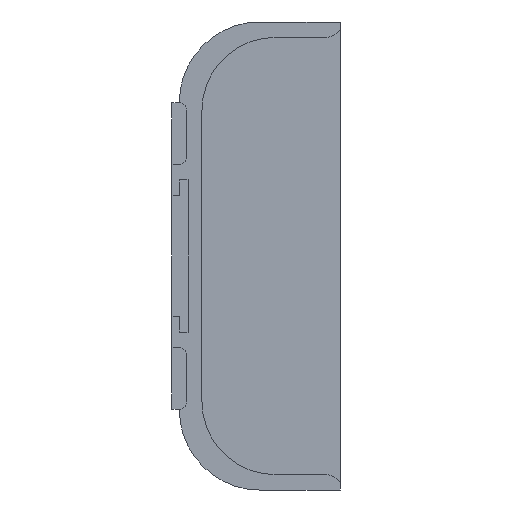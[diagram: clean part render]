
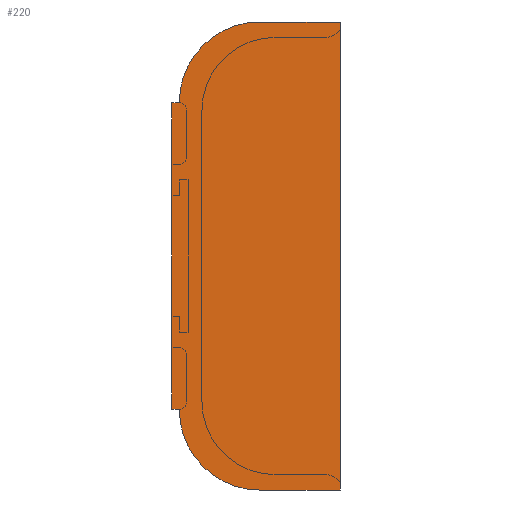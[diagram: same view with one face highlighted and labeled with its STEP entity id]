
A CAD part, left-side view. The second image highlights one B-rep face of the part: STEP entity #220.
In plain terms, the highlighted planar face has unit normal (-1, 0, 0).
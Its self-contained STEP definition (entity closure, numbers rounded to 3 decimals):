
#220 = ADVANCED_FACE( '', ( #447 ), #448, .F. );
#447 = FACE_OUTER_BOUND( '', #689, .T. );
#448 = PLANE( '', #690 );
#689 = EDGE_LOOP( '', ( #1165, #1166, #1167, #1168, #1169, #1170, #1171, #1172, #1173, #1174, #1175, #1176 ) );
#690 = AXIS2_PLACEMENT_3D( '', #1177, #1178, #1179 );
#1165 = ORIENTED_EDGE( '', *, *, #1729, .F. );
#1166 = ORIENTED_EDGE( '', *, *, #1730, .F. );
#1167 = ORIENTED_EDGE( '', *, *, #1546, .F. );
#1168 = ORIENTED_EDGE( '', *, *, #1731, .F. );
#1169 = ORIENTED_EDGE( '', *, *, #1569, .F. );
#1170 = ORIENTED_EDGE( '', *, *, #1541, .F. );
#1171 = ORIENTED_EDGE( '', *, *, #1561, .F. );
#1172 = ORIENTED_EDGE( '', *, *, #1732, .F. );
#1173 = ORIENTED_EDGE( '', *, *, #1733, .F. );
#1174 = ORIENTED_EDGE( '', *, *, #1734, .F. );
#1175 = ORIENTED_EDGE( '', *, *, #1735, .F. );
#1176 = ORIENTED_EDGE( '', *, *, #1673, .F. );
#1177 = CARTESIAN_POINT( '', ( 0., 11., 11. ) );
#1178 = DIRECTION( '', ( 1., 0., 0. ) );
#1179 = DIRECTION( '', ( 0., 0., -1. ) );
#1541 = EDGE_CURVE( '', #1837, #1838, #1839, .T. );
#1546 = EDGE_CURVE( '', #1846, #1847, #1848, .T. );
#1561 = EDGE_CURVE( '', #1873, #1837, #1874, .T. );
#1569 = EDGE_CURVE( '', #1838, #1887, #1888, .T. );
#1673 = EDGE_CURVE( '', #2062, #2063, #2064, .T. );
#1729 = EDGE_CURVE( '', #2142, #2062, #2143, .T. );
#1730 = EDGE_CURVE( '', #1847, #2142, #2144, .T. );
#1731 = EDGE_CURVE( '', #1887, #1846, #2145, .T. );
#1732 = EDGE_CURVE( '', #2146, #1873, #2147, .T. );
#1733 = EDGE_CURVE( '', #2148, #2146, #2149, .T. );
#1734 = EDGE_CURVE( '', #2150, #2148, #2151, .T. );
#1735 = EDGE_CURVE( '', #2063, #2150, #2152, .T. );
#1837 = VERTEX_POINT( '', #2271 );
#1838 = VERTEX_POINT( '', #2272 );
#1839 = LINE( '', #2273, #2274 );
#1846 = VERTEX_POINT( '', #2284 );
#1847 = VERTEX_POINT( '', #2285 );
#1848 = LINE( '', #2286, #2287 );
#1873 = VERTEX_POINT( '', #2323 );
#1874 = LINE( '', #2324, #2325 );
#1887 = VERTEX_POINT( '', #2344 );
#1888 = CIRCLE( '', #2345, 11. );
#2062 = VERTEX_POINT( '', #2586 );
#2063 = VERTEX_POINT( '', #2587 );
#2064 = LINE( '', #2588, #2589 );
#2142 = VERTEX_POINT( '', #2700 );
#2143 = LINE( '', #2701, #2702 );
#2144 = LINE( '', #2703, #2704 );
#2145 = CIRCLE( '', #2705, 1. );
#2146 = VERTEX_POINT( '', #2706 );
#2147 = LINE( '', #2707, #2708 );
#2148 = VERTEX_POINT( '', #2709 );
#2149 = CIRCLE( '', #2710, 11. );
#2150 = VERTEX_POINT( '', #2711 );
#2151 = CIRCLE( '', #2712, 1. );
#2152 = LINE( '', #2713, #2714 );
#2271 = CARTESIAN_POINT( '', ( 0., 0., 0. ) );
#2272 = CARTESIAN_POINT( '', ( 0., 11., 0. ) );
#2273 = CARTESIAN_POINT( '', ( 0., 0., 0. ) );
#2274 = VECTOR( '', #2854, 1000. );
#2284 = CARTESIAN_POINT( '', ( 0., 22., 11.05 ) );
#2285 = CARTESIAN_POINT( '', ( 0., 23.024, 11.05 ) );
#2286 = CARTESIAN_POINT( '', ( 0., 22., 11.05 ) );
#2287 = VECTOR( '', #2858, 1000. );
#2323 = CARTESIAN_POINT( '', ( 0., 0., 64. ) );
#2324 = CARTESIAN_POINT( '', ( 0., 0., 64. ) );
#2325 = VECTOR( '', #2870, 1000. );
#2344 = CARTESIAN_POINT( '', ( 0., 22., 11.05 ) );
#2345 = AXIS2_PLACEMENT_3D( '', #2877, #2878, #2879 );
#2586 = CARTESIAN_POINT( '', ( 0., 23., 44.5 ) );
#2587 = CARTESIAN_POINT( '', ( 0., 23.024, 52.95 ) );
#2588 = CARTESIAN_POINT( '', ( 0., 23., 44.5 ) );
#2589 = VECTOR( '', #3004, 1000. );
#2700 = CARTESIAN_POINT( '', ( 0., 23., 19.5 ) );
#2701 = CARTESIAN_POINT( '', ( 0., 23., 40.25 ) );
#2702 = VECTOR( '', #3059, 1000. );
#2703 = CARTESIAN_POINT( '', ( 0., 23.024, 11.05 ) );
#2704 = VECTOR( '', #3060, 1000. );
#2705 = AXIS2_PLACEMENT_3D( '', #3061, #3062, #3063 );
#2706 = CARTESIAN_POINT( '', ( 0., 11., 64. ) );
#2707 = CARTESIAN_POINT( '', ( 0., 11., 64. ) );
#2708 = VECTOR( '', #3064, 1000. );
#2709 = CARTESIAN_POINT( '', ( 0., 22., 52.95 ) );
#2710 = AXIS2_PLACEMENT_3D( '', #3065, #3066, #3067 );
#2711 = CARTESIAN_POINT( '', ( 0., 22., 52.95 ) );
#2712 = AXIS2_PLACEMENT_3D( '', #3068, #3069, #3070 );
#2713 = CARTESIAN_POINT( '', ( 0., 23.024, 52.95 ) );
#2714 = VECTOR( '', #3071, 1000. );
#2854 = DIRECTION( '', ( 0., 1., 0. ) );
#2858 = DIRECTION( '', ( 0., 1., 0. ) );
#2870 = DIRECTION( '', ( 0., 0., -1. ) );
#2877 = CARTESIAN_POINT( '', ( 0., 11., 11. ) );
#2878 = DIRECTION( '', ( 1., 0., 0. ) );
#2879 = DIRECTION( '', ( 0., 0., -1. ) );
#3004 = DIRECTION( '', ( 0., 0.003, 1. ) );
#3059 = DIRECTION( '', ( 0., 0., 1. ) );
#3060 = DIRECTION( '', ( 0., -0.003, 1. ) );
#3061 = CARTESIAN_POINT( '', ( 0., 22., 12.05 ) );
#3062 = DIRECTION( '', ( 1., 0., 0. ) );
#3063 = DIRECTION( '', ( 0., 0., -1. ) );
#3064 = DIRECTION( '', ( 0., -1., 0. ) );
#3065 = CARTESIAN_POINT( '', ( 0., 11., 53. ) );
#3066 = DIRECTION( '', ( 1., 0., 0. ) );
#3067 = DIRECTION( '', ( 0., 0., -1. ) );
#3068 = CARTESIAN_POINT( '', ( 0., 22., 51.95 ) );
#3069 = DIRECTION( '', ( 1., 0., 0. ) );
#3070 = DIRECTION( '', ( 0., 0., -1. ) );
#3071 = DIRECTION( '', ( 0., -1., 0. ) );
